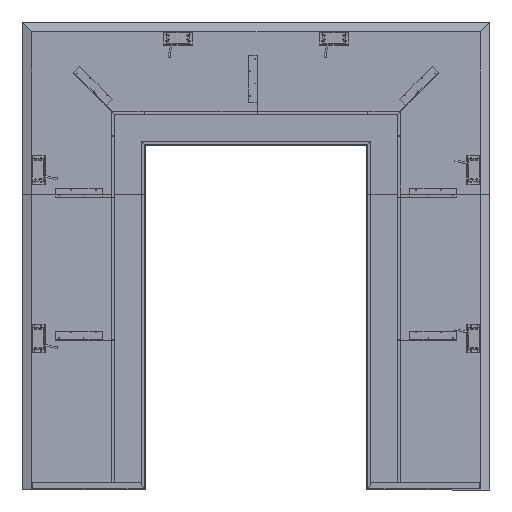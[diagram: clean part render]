
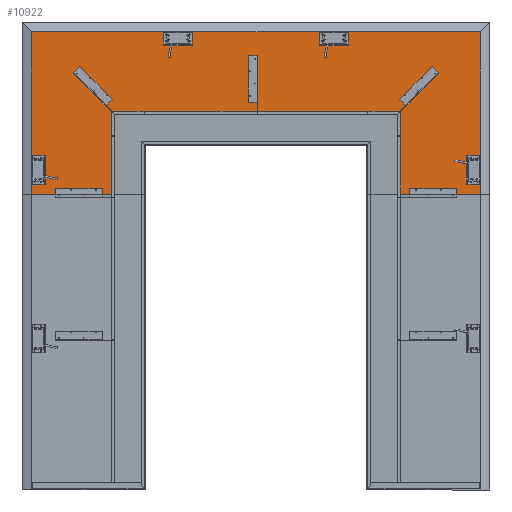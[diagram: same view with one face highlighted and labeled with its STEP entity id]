
A CAD part, front view. The second image highlights one B-rep face of the part: STEP entity #10922.
In plain terms, the highlighted planar face has unit normal (0, -1, 0).
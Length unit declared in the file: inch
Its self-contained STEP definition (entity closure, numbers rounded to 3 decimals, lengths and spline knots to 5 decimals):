
#2390=FACE_OUTER_BOUND('',#2882,.T.);
#2882=EDGE_LOOP('',(#7365,#7366,#7367,#7368,#7369,#7370,#7371,#7372));
#3488=LINE('',#17461,#4461);
#3489=LINE('',#17464,#4462);
#3490=LINE('',#17466,#4463);
#3491=LINE('',#17468,#4464);
#3492=LINE('',#17470,#4465);
#3493=LINE('',#17472,#4466);
#3494=LINE('',#17474,#4467);
#3495=LINE('',#17475,#4468);
#4461=VECTOR('',#13814,0.3937);
#4462=VECTOR('',#13817,0.3937);
#4463=VECTOR('',#13818,0.3937);
#4464=VECTOR('',#13819,0.3937);
#4465=VECTOR('',#13820,0.3937);
#4466=VECTOR('',#13821,0.3937);
#4467=VECTOR('',#13822,0.3937);
#4468=VECTOR('',#13823,0.3937);
#5431=VERTEX_POINT('',#17454);
#5434=VERTEX_POINT('',#17459);
#5435=VERTEX_POINT('',#17463);
#5436=VERTEX_POINT('',#17465);
#5437=VERTEX_POINT('',#17467);
#5438=VERTEX_POINT('',#17469);
#5439=VERTEX_POINT('',#17471);
#5440=VERTEX_POINT('',#17473);
#6206=EDGE_CURVE('',#5434,#5431,#3488,.T.);
#6207=EDGE_CURVE('',#5435,#5434,#3489,.T.);
#6208=EDGE_CURVE('',#5436,#5435,#3490,.T.);
#6209=EDGE_CURVE('',#5437,#5436,#3491,.T.);
#6210=EDGE_CURVE('',#5438,#5437,#3492,.T.);
#6211=EDGE_CURVE('',#5439,#5438,#3493,.T.);
#6212=EDGE_CURVE('',#5440,#5439,#3494,.T.);
#6213=EDGE_CURVE('',#5431,#5440,#3495,.T.);
#7365=ORIENTED_EDGE('',*,*,#6206,.F.);
#7366=ORIENTED_EDGE('',*,*,#6207,.F.);
#7367=ORIENTED_EDGE('',*,*,#6208,.F.);
#7368=ORIENTED_EDGE('',*,*,#6209,.F.);
#7369=ORIENTED_EDGE('',*,*,#6210,.F.);
#7370=ORIENTED_EDGE('',*,*,#6211,.F.);
#7371=ORIENTED_EDGE('',*,*,#6212,.F.);
#7372=ORIENTED_EDGE('',*,*,#6213,.F.);
#9678=PLANE('',#12470);
#10922=ADVANCED_FACE('',(#2390),#9678,.F.);
#12470=AXIS2_PLACEMENT_3D('',#17462,#13815,#13816);
#13814=DIRECTION('',(-1.,0.,0.));
#13815=DIRECTION('center_axis',(0.,1.,0.));
#13816=DIRECTION('ref_axis',(0.,0.,1.));
#13817=DIRECTION('',(0.,0.,-1.));
#13818=DIRECTION('',(1.,0.,0.));
#13819=DIRECTION('',(0.,0.,1.));
#13820=DIRECTION('',(-1.,0.,0.));
#13821=DIRECTION('',(0.,0.,1.));
#13822=DIRECTION('',(1.,0.,0.));
#13823=DIRECTION('',(0.,0.,1.));
#17454=CARTESIAN_POINT('',(-42.,0.,-111.59596));
#17459=CARTESIAN_POINT('',(-2.40404,0.,-111.59596));
#17461=CARTESIAN_POINT('',(-10.5,0.,-111.59596));
#17462=CARTESIAN_POINT('Origin',(-21.,0.,-57.));
#17463=CARTESIAN_POINT('',(-2.40404,0.,-2.40404));
#17464=CARTESIAN_POINT('',(-2.40404,0.,-28.5));
#17465=CARTESIAN_POINT('',(-42.,0.,-2.40404));
#17466=CARTESIAN_POINT('',(-31.5,0.,-2.40404));
#17467=CARTESIAN_POINT('',(-42.,0.,-30.));
#17468=CARTESIAN_POINT('',(-42.,0.,-30.));
#17469=CARTESIAN_POINT('',(-30.,0.,-30.));
#17470=CARTESIAN_POINT('',(-30.,0.,-30.));
#17471=CARTESIAN_POINT('',(-30.,0.,-84.));
#17472=CARTESIAN_POINT('',(-30.,0.,-84.));
#17473=CARTESIAN_POINT('',(-42.,0.,-84.));
#17474=CARTESIAN_POINT('',(-42.,0.,-84.));
#17475=CARTESIAN_POINT('',(-42.,0.,-114.));
